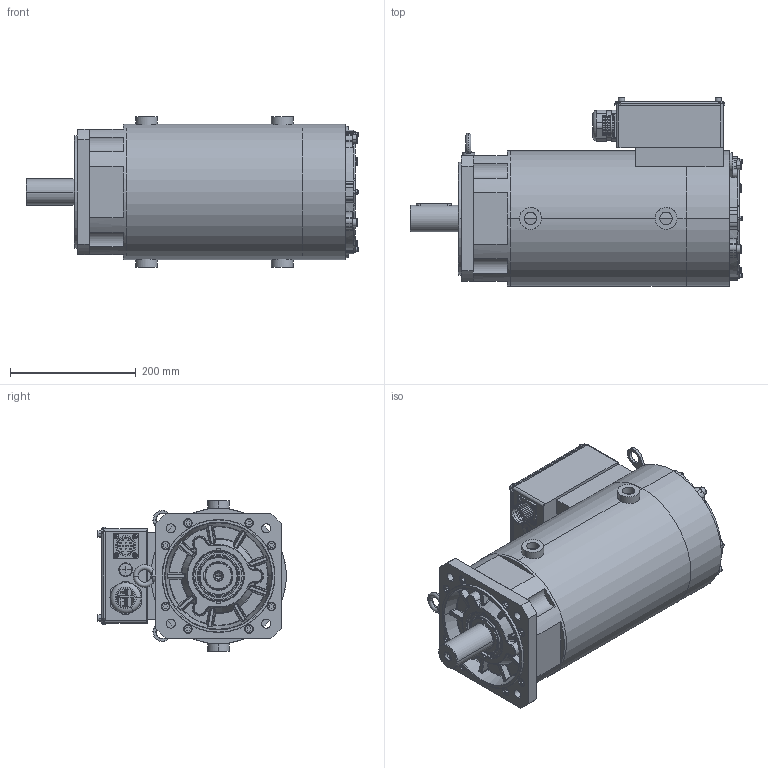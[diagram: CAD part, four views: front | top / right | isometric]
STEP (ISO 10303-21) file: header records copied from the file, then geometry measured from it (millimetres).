
FILE_DESCRIPTION((''),'2;1');
FILE_NAME('11101-02124_SW0001','2026-03-09T14:08:54',('admin'),(''),'CREO PARAMETRIC BY PTC INC, 2019080','CREO PARAMETRIC BY PTC INC, 2019080','');
FILE_SCHEMA(('CONFIG_CONTROL_DESIGN'));
Length unit declared in the file: millimetre
Products named in the file (1): 11101-02124_SW0001
Bounding box: 529 x 300.5 x 240 mm (x, y, z)
Surface area: 1238703.3 mm2 (no closed solid volume)
Topology: 0 solids, 101 shells, 1404 faces, 5182 edges, 3788 vertices
Faces by surface type: plane 592, cylinder 508, cone 102, torus 95, bspline 87, sphere 20
Entity records: 70856 total; most frequent: CARTESIAN_POINT 27232, DIRECTION 9230, ORIENTED_EDGE 8034, EDGE_CURVE 5166, VERTEX_POINT 3788, AXIS2_PLACEMENT_3D 3181, VECTOR 2868, LINE 2868
